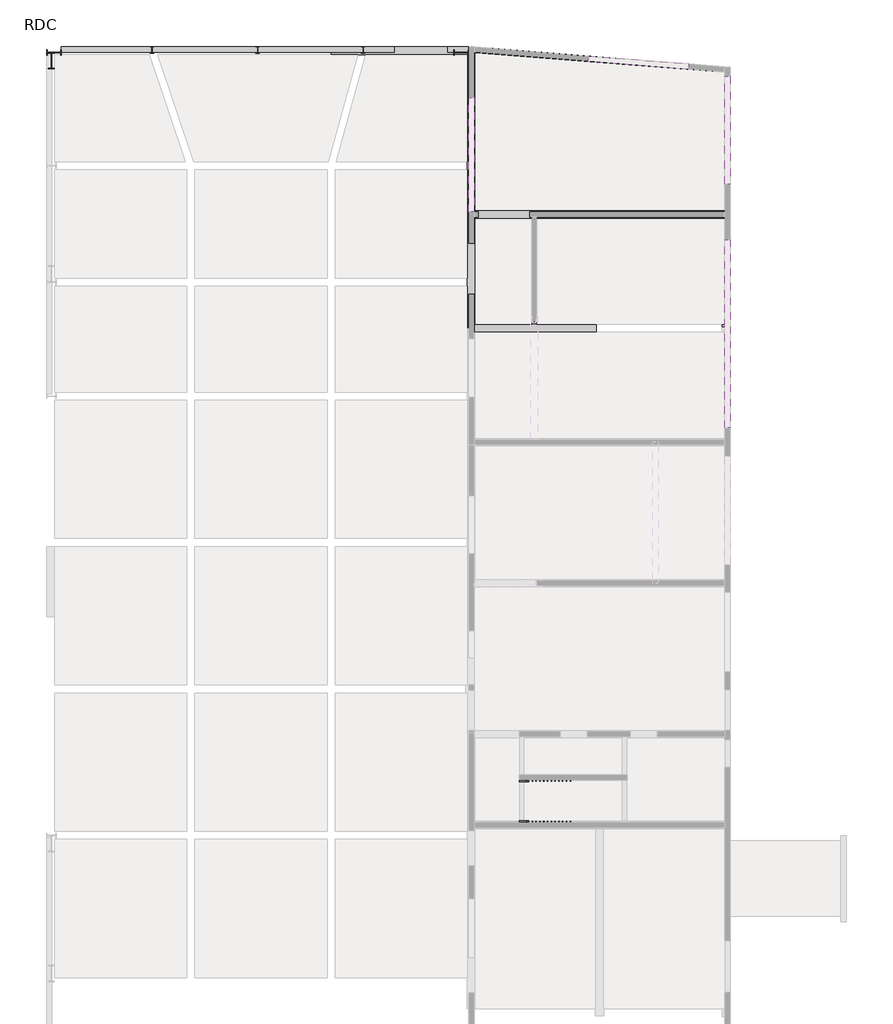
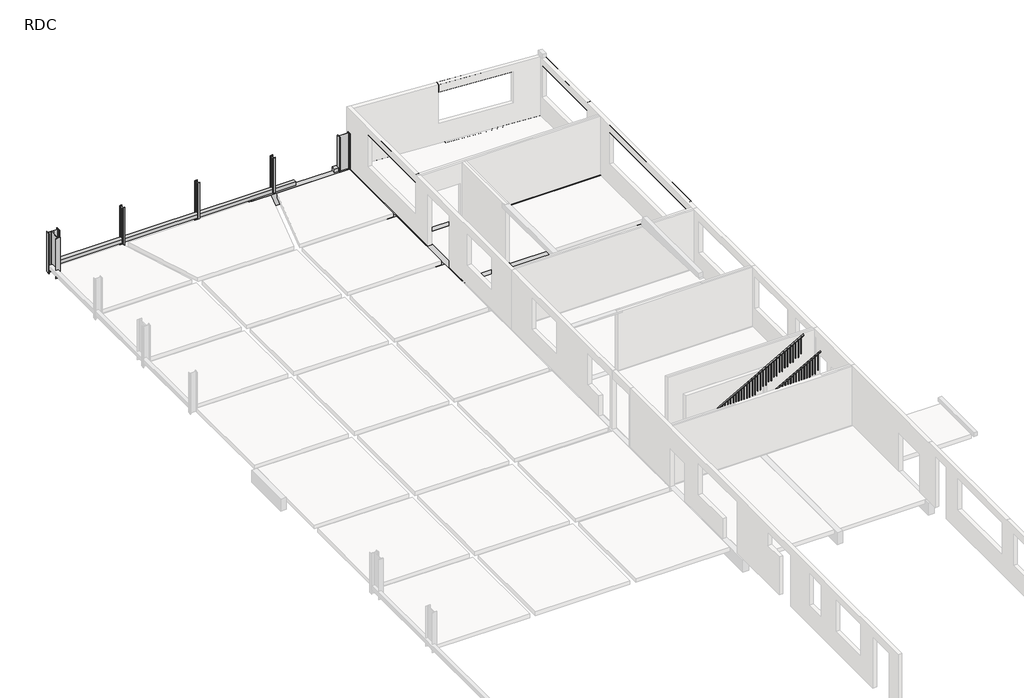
# One storey, part 4 of 4: 17 beams, 6 columns, 2 railings.
"""IFC4 building model written with IfcOpenShell, lengths in millimetres."""

from ifc_helpers import new_model, si_unit, frame, origin, place, context, project, spatial, polyline, outline, extrude, faceted_brep, transform, mapped, element, save
from components import ipe240_2a153a85, ipe550_67ffbe16, ipe600_4712eb6f

model = new_model("IFC4")

# Units and contexts
model_context = context("Model", 3, world=origin())
ifc_project = project(units=[si_unit("LENGTHUNIT", "METRE", prefix="MILLI")], contexts=[model_context])

# Site, building, storey
site = spatial("IfcSite", under=ifc_project)
building = spatial("IfcBuilding", under=site)
storey = spatial("IfcBuildingStorey", under=building, Name="RDC", Elevation=0.0)

# Beams
placement = place(None, origin())
element("IfcBeam", 1, ObjectType="Relevé : 20x20h", at=placement, inside=storey, context=model_context, shape_type="Brep", body=[
    faceted_brep([(15319.509617, 75644.7694586, 200.0), (15319.509617, 75644.7694586, 0.0), (15319.509617, 75444.7694586, 0.0), (15319.509617, 75444.7694586, 200.0), (27589.209617, 75644.7694586, 200.0), (27589.209617, 75444.7694586, 200.0), (27589.209617, 75444.7694586, 0.0), (27589.209617, 75644.7694586, 0.0), (25266.0406356, 75644.7694586, 0.0), (20092.0406356, 75644.7694586, 0.0)], [[[0, 1, 2, 3]], [[4, 5, 6, 7]], [[1, 0, 4, 7, 8, 9]], [[2, 1, 9, 8, 7, 6]], [[3, 2, 6, 5]], [[0, 3, 5, 4]]]),
])
element("IfcBeam", 2, ObjectType="Relevé : 20x20h", at=placement, inside=storey, context=model_context, shape_type="Brep", body=[
    faceted_brep([(30339.0482779, 75444.7694586, 200.0), (30339.0482779, 75444.7694586, 0.0), (30339.0482779, 75525.7146062, 0.0), (30339.0482779, 75644.7694586, 0.0), (30339.0482779, 75644.7694586, 200.0), (29576.6482779, 75444.7694586, 200.0), (29576.6482779, 75644.7694586, 200.0), (29576.6482779, 75644.7694586, 0.0), (29576.6482779, 75444.7694586, 0.0)], [[[0, 1, 2, 3, 4]], [[5, 6, 7, 8]], [[1, 0, 5, 8]], [[3, 2, 1, 8, 7]], [[4, 3, 7, 6]], [[0, 4, 6, 5]]]),
])
element("IfcBeam", 3, ObjectType="Longrine : 20x65h", at=placement, inside=storey, context=model_context, shape_type="Brep", body=[
    faceted_brep([(32659.0482767, 65399.8020814, -650.0), (32659.0482767, 65399.8020814, -200.0), (32659.0482767, 65399.8020814, 0.0), (32659.0482767, 65499.8018879, 0.0), (32659.0482767, 69299.8020814, 0.0), (32659.0482767, 69299.8020814, -200.0), (32659.0482767, 69299.8020814, -650.0), (32859.0482767, 65399.8020814, -650.0), (32859.0482767, 69299.8020814, -650.0), (32859.0482767, 65399.8020814, 0.0), (32859.0482767, 65399.8020814, -200.0), (32859.0482767, 69299.8020814, -200.0), (32859.0482767, 69299.8020814, 0.0), (32859.0482767, 65499.8018879, 0.0)], [[[0, 1, 2, 3, 4, 5, 6]], [[7, 0, 6, 8]], [[9, 10, 7, 8, 11, 12, 13]], [[2, 9, 13, 12, 4, 3]], [[2, 1, 0, 7, 10, 9]], [[6, 5, 4, 12, 11, 8]]]),
])
element("IfcBeam", 4, ObjectType="Longrine : 30x65h", at=placement, inside=storey, context=model_context, shape_type="Brep", body=[
    faceted_brep([(35069.7001414, 75271.7680672, -650.0), (35069.7001414, 75271.7680672, 0.0), (39789.0482781, 74898.6043676, 0.0), (39989.0482781, 74882.7901624, 0.0), (39989.0482781, 74882.7901624, -650.0), (35046.0526432, 74972.7015264, -650.0), (39989.0482781, 74581.8537897, -650.0), (39689.0482781, 74605.5750975, -650.0), (35046.0526432, 74972.7015264, 0.0), (35046.0526432, 74972.7015264, -200.0), (39989.0482781, 74581.8537897, 0.0), (39789.0482781, 74597.6679949, 0.0), (35053.9351426, 75072.3903734, 0.0)], [[[0, 1, 2, 3, 4]], [[5, 0, 4, 6, 7]], [[8, 9, 5, 7, 6, 10, 11]], [[1, 12, 8, 11, 10, 3, 2]], [[4, 3, 10, 6]], [[1, 0, 5, 9, 8, 12]]]),
])
element("IfcBeam", 5, ObjectType="Longrine : 30x65h", at=placement, inside=storey, context=model_context, shape_type="Brep", body=[
    faceted_brep([(30339.0482779, 75344.8891914, -650.0), (30589.0482779, 75325.1214348, -650.0), (35046.0526432, 74972.7015264, -650.0), (35046.0526432, 74972.7015264, -200.0), (30589.0482779, 75325.1214348, -200.0), (30589.0482779, 75325.1214348, 0.0), (30339.0482779, 75344.8891914, 0.0), (30348.4865643, 75645.0792691, -650.0), (35069.7001414, 75271.7680672, -650.0), (30339.0482779, 75525.7146062, -650.0), (30347.1717276, 75628.4507159, -650.0), (30348.4865643, 75645.0792691, 0.0), (30539.0482779, 75630.0113589, 0.0), (35069.7001414, 75271.7680672, 0.0), (30347.1717276, 75628.4507159, 0.0), (30339.0482779, 75525.7146062, 0.0), (30589.0482779, 75425.4335591, 0.0), (35053.9351426, 75072.3903734, 0.0), (35053.9351426, 75072.3903734, -200.0), (30589.0482779, 75425.4335591, -200.0)], [[[0, 1, 2, 3, 4, 5, 6]], [[7, 8, 2, 1, 0, 9, 10]], [[8, 7, 11, 12, 13]], [[13, 12, 11, 14, 15, 6, 5, 16, 17]], [[11, 7, 10, 9, 15, 14]], [[0, 6, 15, 9]], [[18, 19, 4, 3]], [[16, 19, 18, 17]], [[19, 16, 5, 4]], [[2, 8, 13, 17, 18, 3]]]),
])
element("IfcBeam", 6, ObjectType="Longrine : 30x65h", at=placement, inside=storey, context=model_context, shape_type="Brep", body=[
    faceted_brep([(39689.0482781, 69299.8020814, -650.0), (39689.0482781, 69299.8020814, -200.0), (39689.0482781, 69299.8020814, 0.0), (39689.0482781, 69599.8020814, 0.0), (39689.0482781, 69599.8020814, -200.0), (39689.0482781, 74605.5750975, -200.0), (39689.0482781, 74605.5750975, -650.0), (39689.0482781, 69599.8020814, -650.0), (39989.0482781, 69299.8020814, -650.0), (39989.0482781, 74581.8537897, -650.0), (39989.0482781, 69299.8020814, 0.0), (39989.0482781, 74581.8537897, 0.0), (39789.0482781, 69299.8020814, 0.0), (39789.0482781, 74597.6679949, 0.0), (39789.0482781, 69599.8020814, 0.0), (39789.0482781, 74597.6679949, -200.0), (39789.0482781, 69599.8020814, -200.0)], [[[0, 1, 2, 3, 4, 5, 6, 7]], [[8, 0, 7, 6, 9]], [[10, 8, 9, 11]], [[2, 12, 10, 11, 13, 14, 3]], [[2, 1, 0, 8, 10, 12]], [[9, 6, 5, 15, 13, 11]], [[4, 16, 15, 5]], [[16, 14, 13, 15]], [[14, 16, 4, 3]]]),
])
element("IfcBeam", 7, ObjectType="Longrine : 30x65h", at=placement, inside=storey, context=model_context, shape_type="Brep", body=[
    faceted_brep([(39689.0482781, 65289.8020814, -650.0), (39689.0482781, 65289.8020814, 0.0), (39689.0482781, 65399.8020814, 0.0), (39689.0482781, 65399.8020814, -200.0), (39689.0482781, 69299.8020814, -200.0), (39689.0482781, 69299.8020814, -650.0), (39989.0482781, 65289.8020814, -650.0), (39989.0482781, 69299.8020814, -650.0), (39989.0482781, 65289.8020814, 0.0), (39989.0482781, 69299.8020814, 0.0), (39789.0482781, 69299.8020814, 0.0), (39789.0482781, 65399.8020814, 0.0), (39789.0482781, 65399.8020814, -200.0), (39789.0482781, 69299.8020814, -200.0)], [[[0, 1, 2, 3, 4, 5]], [[6, 0, 5, 7]], [[8, 6, 7, 9]], [[1, 8, 9, 10, 11, 2]], [[1, 0, 6, 8]], [[12, 13, 4, 3]], [[11, 12, 3, 2]], [[13, 12, 11, 10]], [[7, 5, 4, 13, 10, 9]]]),
])
element("IfcBeam", 8, ObjectType="Longrine : 30x65h", at=placement, inside=storey, context=model_context, shape_type="Brep", body=[
    faceted_brep([(35049.0482776, 69599.8020814, -650.0), (35049.0482776, 69599.8020814, 0.0), (39689.0482781, 69599.8020814, 0.0), (39689.0482781, 69599.8020814, -200.0), (39689.0482781, 69599.8020814, -650.0), (35049.0482776, 69299.8020814, -650.0), (39689.0482781, 69299.8020814, -650.0), (35049.0482776, 69299.8020814, 0.0), (39689.0482781, 69299.8020814, 0.0)], [[[0, 1, 2, 3, 4]], [[5, 0, 4, 6]], [[7, 5, 6, 8]], [[1, 7, 8, 2]], [[4, 3, 2, 8, 6]], [[1, 0, 5, 7]]]),
])
element("IfcBeam", 9, ObjectType="Longrine : 30x65h", at=placement, inside=storey, context=model_context, shape_type="Brep", body=[
    faceted_brep([(35049.0482776, 69299.8020814, -650.0), (35049.0482776, 69299.8020814, 0.0), (32859.0482767, 69299.8020814, 0.0), (32659.0482767, 69299.8020814, 0.0), (30589.0482779, 69299.8020814, 0.0), (30339.0482779, 69299.8020814, 0.0), (30339.0482779, 69299.8020814, -650.0), (30589.0482779, 69299.8020814, -650.0), (32659.0482767, 69299.8020814, -650.0), (32859.0482767, 69299.8020814, -650.0), (35049.0482776, 69599.8020814, -650.0), (30339.0482779, 69449.8020814, -650.0), (30339.0482779, 69599.8020814, -650.0), (30589.0482779, 69599.8020814, -650.0), (35049.0482776, 69599.8020814, 0.0), (30339.0482779, 69599.8020814, 0.0), (30589.0482779, 69599.8020814, 0.0), (30339.0482779, 69449.8020814, 0.0)], [[[0, 1, 2, 3, 4, 5, 6, 7, 8, 9]], [[10, 0, 9, 8, 7, 6, 11, 12, 13]], [[14, 10, 13, 12, 15, 16]], [[1, 14, 16, 15, 17, 5, 4, 3, 2]], [[6, 5, 17, 15, 12, 11]], [[1, 0, 10, 14]]]),
])
element("IfcBeam", 10, ObjectType="Longrine : 30x65h", at=placement, inside=storey, context=model_context, shape_type="Brep", body=[
    faceted_brep([(35054.0482776, 65399.8020814, 0.0), (35054.0482776, 65399.8020814, -650.0), (32859.0482767, 65399.8020814, -650.0), (32659.0482767, 65399.8020814, -650.0), (30589.0482779, 65399.8020814, -650.0), (30339.0482779, 65399.8020814, -650.0), (30339.0482779, 65399.8020814, 0.0), (30589.0482779, 65399.8020814, 0.0), (32659.0482767, 65399.8020814, 0.0), (32859.0482767, 65399.8020814, 0.0), (35054.0482776, 65099.8020814, -650.0), (30589.0482779, 65099.8020814, -650.0), (30339.0482779, 65099.8020814, -650.0), (30339.0482779, 65249.8020814, -650.0), (35054.0482776, 65099.8020814, 0.0), (30589.0482779, 65099.8020814, 0.0), (30339.0482779, 65099.8020814, 0.0), (30339.0482779, 65249.8020814, 0.0)], [[[0, 1, 2, 3, 4, 5, 6, 7, 8, 9]], [[1, 10, 11, 12, 13, 5, 4, 3, 2]], [[10, 14, 15, 16, 12, 11]], [[14, 0, 9, 8, 7, 6, 17, 16, 15]], [[6, 5, 13, 12, 16, 17]], [[0, 14, 10, 1]]]),
])
element("IfcBeam", 11, ObjectType="Longrine : 30x65h", at=placement, inside=storey, context=model_context, shape_type="Brep", body=[
    faceted_brep([(30289.0482779, 69449.8020814, 0.0), (30289.0482779, 71099.8020807, 0.0), (30289.0482779, 71399.8020807, 0.0), (30289.0482779, 75344.7694586, 0.0), (30289.0482779, 75628.4507159, 0.0), (30289.0482779, 75628.4507159, -650.0), (30289.0482779, 75344.7694586, -650.0), (30289.0482779, 71399.8020807, -650.0), (30289.0482779, 71099.8020807, -650.0), (30289.0482779, 69449.8020814, -650.0), (30347.1717276, 75628.4507159, -650.0), (30339.0482779, 75525.7146062, -650.0), (30339.0482779, 75344.8891914, -650.0), (30589.0482779, 75325.1214348, -650.0), (30589.0482779, 69599.8020814, -650.0), (30339.0482779, 69599.8020814, -650.0), (30339.0482779, 69449.8020814, -650.0), (30589.0482779, 75325.1214348, -200.0), (30589.0482779, 75325.1214348, 0.0), (30589.0482779, 69599.8020814, 0.0), (30589.0482779, 69599.8020814, -200.0), (30339.0482779, 69449.8020814, 0.0), (30339.0482779, 69599.8020814, 0.0), (30339.0482779, 75344.8891914, 0.0), (30339.0482779, 75444.7694586, 0.0), (30339.0482779, 75525.7146062, 0.0), (30347.1717276, 75628.4507159, 0.0)], [[[0, 1, 2, 3, 4, 5, 6, 7, 8, 9]], [[9, 8, 7, 6, 5, 10, 11, 12, 13, 14, 15, 16]], [[13, 17, 18, 19, 20, 14]], [[4, 3, 2, 1, 0, 21, 22, 19, 18, 23, 24, 25, 26]], [[13, 12, 23, 18, 17]], [[22, 15, 14, 20, 19]], [[15, 22, 21, 16]], [[23, 12, 11, 25, 24]], [[0, 9, 16, 21]], [[5, 4, 26, 10]], [[25, 11, 10, 26]]]),
])
element("IfcBeam", 12, ObjectType="Longrine : 30x65h", at=placement, inside=storey, context=model_context, shape_type="Brep", body=[
    faceted_brep([(30289.0482779, 69449.8020814, 0.0), (30289.0482779, 69449.8020814, -650.0), (30289.0482779, 67099.8020807, -650.0), (30289.0482779, 66799.8020807, -650.0), (30289.0482779, 65249.8020814, -650.0), (30289.0482779, 65249.8020814, 0.0), (30289.0482779, 66799.8020807, 0.0), (30289.0482779, 67099.8020807, 0.0), (30339.0482779, 69299.8020814, -650.0), (30589.0482779, 69299.8020814, -650.0), (30589.0482779, 65399.8020814, -650.0), (30339.0482779, 65399.8020814, -650.0), (30339.0482779, 65249.8020814, -650.0), (30339.0482779, 69449.8020814, -650.0), (30589.0482779, 69299.8020814, -200.0), (30589.0482779, 69299.8020814, 0.0), (30589.0482779, 65399.8020814, 0.0), (30589.0482779, 65399.8020814, -200.0), (30339.0482779, 69299.8020814, 0.0), (30339.0482779, 69449.8020814, 0.0), (30339.0482779, 65249.8020814, 0.0), (30339.0482779, 65399.8020814, 0.0)], [[[0, 1, 2, 3, 4, 5, 6, 7]], [[8, 9, 10, 11, 12, 4, 3, 2, 1, 13]], [[9, 14, 15, 16, 17, 10]], [[15, 18, 19, 0, 7, 6, 5, 20, 21, 16]], [[8, 18, 15, 14, 9]], [[1, 0, 19, 13]], [[18, 8, 13, 19]], [[21, 11, 10, 17, 16]], [[11, 21, 20, 12]], [[5, 4, 12, 20]]]),
])
element("IfcBeam", 13, ObjectType="Longrine : 30x65h", at=placement, inside=storey, context=model_context, shape_type="Brep", body=[
    faceted_brep([(30351.7444568, 75644.7694586, -650.0), (30351.7444568, 75644.7694586, 0.0), (30351.7444568, 75628.4507159, 0.0), (30351.7444568, 75628.4507159, -650.0), (25266.0406356, 75644.7694586, -650.0), (25266.0406356, 75644.7694586, 0.0), (27589.209617, 75644.7694586, 0.0), (29576.6482779, 75644.7694586, 0.0), (30339.0482779, 75644.7694586, 0.0), (30347.1717276, 75628.4507159, -650.0), (30289.0482779, 75628.4507159, -650.0), (30289.0482779, 75344.7694586, -650.0), (26552.1591595, 75344.7694586, -650.0), (26240.9368486, 75344.7694586, -650.0), (25266.0406356, 75344.7694586, -650.0), (25266.0406356, 75344.7694586, 0.0), (30289.0482779, 75344.7694586, -200.0), (30289.0482779, 75344.7694586, 0.0), (26552.1591595, 75344.7694586, 0.0), (26240.9368486, 75344.7694586, 0.0), (30289.0482779, 75628.4507159, 0.0), (30347.1717276, 75628.4507159, 0.0)], [[[0, 1, 2, 3]], [[1, 0, 4, 5, 6, 7, 8]], [[4, 0, 3, 9, 10, 11, 12, 13, 14]], [[15, 14, 13, 12, 11, 16, 17, 18, 19]], [[1, 8, 7, 6, 5, 15, 19, 18, 17, 20, 21, 2]], [[10, 20, 17, 16, 11]], [[5, 4, 14, 15]], [[20, 10, 9, 3, 2, 21]]]),
])
element("IfcBeam", 14, ObjectType="Poutre : 20x40h", at=placement, inside=storey, context=model_context, shape_type="SweptSolid", body=[
    extrude(outline(polyline([(39789.0482781, 74549.5520814), (39989.0482781, 74549.5520814), (39989.0482781, 70574.5520814), (39789.0482781, 70574.5520814), (39789.0482781, 74549.5520814)])), frame((0.0, 0.0, 2800.0), z_axis=(0.0, 0.0, 1.0), x_axis=(1.0, 0.0, 0.0)), (0.0, 0.0, 1.0), 400.0),
])
element("IfcBeam", 15, ObjectType="Poutre : 20x40h", at=placement, inside=storey, context=model_context, shape_type="SweptSolid", body=[
    extrude(outline(polyline([(38459.2564911, 75003.7523687), (38443.4914923, 74804.3746748), (34755.0041557, 75096.0271532), (34770.7691545, 75295.4048471), (38459.2564911, 75003.7523687)])), frame((0.0, 0.0, 2800.0), z_axis=(0.0, 0.0, 1.0), x_axis=(1.0, 0.0, 0.0)), (0.0, 0.0, 1.0), 400.0),
])
element("IfcBeam", 16, ObjectType="Poutre : 20x40h", at=placement, inside=storey, context=model_context, shape_type="SweptSolid", body=[
    extrude(outline(polyline([(30539.0482779, 69550.0032938), (30339.0482779, 69550.0032938), (30339.0482779, 73750.0032938), (30539.0482779, 73750.0032938), (30539.0482779, 69550.0032938)])), frame((0.0, 0.0, 2800.0), z_axis=(0.0, 0.0, 1.0), x_axis=(1.0, 0.0, 0.0)), (0.0, 0.0, 1.0), 400.0),
])
element("IfcBeam", 17, ObjectType="Poutre : 20x63h", at=placement, inside=storey, context=model_context, shape_type="SweptSolid", body=[
    extrude(outline(polyline([(39789.0482781, 68524.8020814), (39989.0482781, 68524.8020814), (39989.0482781, 61574.8020814), (39789.0482781, 61574.8020814), (39789.0482781, 68524.8020814)])), frame((0.0, 0.0, 2800.0), z_axis=(0.0, 0.0, 1.0), x_axis=(1.0, 0.0, 0.0)), (0.0, 0.0, 1.0), 400.0),
])

# Columns
ipe240_shape = ipe240_2a153a85(model_context)
element("IfcColumn", 18, ObjectType="IPE-Poutrelles-Poteau : IPE240", at=placement, inside=storey, context=model_context, shape_type="MappedRepresentation", body=[
    mapped(ipe240_shape, transform((18661.2406356, 75524.7694586, 0.0), x_axis=(1.0, 0.0, 0.0), y_axis=(0.0, 1.0, 0.0), z_axis=(0.0, 0.0, 1.0))),
])
element("IfcColumn", 19, ObjectType="IPE-Poutrelles-Poteau : IPE240", at=placement, inside=storey, context=model_context, shape_type="MappedRepresentation", body=[
    mapped(ipe240_shape, transform((22553.7406356, 75524.7694586, 0.0), x_axis=(1.0, 0.0, 0.0), y_axis=(0.0, 1.0, 0.0), z_axis=(0.0, 0.0, 1.0))),
])
element("IfcColumn", 20, ObjectType="IPE-Poutrelles-Poteau : IPE240", at=placement, inside=storey, context=model_context, shape_type="MappedRepresentation", body=[
    mapped(ipe240_shape, transform((26446.2406356, 75524.7694586, 0.0), x_axis=(1.0, 0.0, 0.0), y_axis=(0.0, 1.0, 0.0), z_axis=(0.0, 0.0, 1.0))),
])
ipe550_shape = ipe550_67ffbe16(model_context)
element("IfcColumn", 21, ObjectType="IPE-Poutrelles-Poteau : IPE550", at=placement, inside=storey, context=model_context, shape_type="MappedRepresentation", body=[
    mapped(ipe550_shape, transform((15044.048278, 75429.7694586, 0.0), x_axis=(0.0, 1.0000000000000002, 0.0), y_axis=(-1.0000000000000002, 0.0, 0.0), z_axis=(0.0, 0.0, 1.0))),
])
element("IfcColumn", 22, ObjectType="IPE-Poutrelles-Poteau : IPE550", at=placement, inside=storey, context=model_context, shape_type="MappedRepresentation", body=[
    mapped(ipe550_shape, transform((30064.0482779, 75429.8020807, 0.0), x_axis=(0.0, 1.0000000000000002, 0.0), y_axis=(-1.0000000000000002, 0.0, 0.0), z_axis=(0.0, 0.0, 1.0))),
])
ipe600_shape = ipe600_4712eb6f(model_context)
element("IfcColumn", 23, ObjectType="IPE-Poutrelles-Poteau : IPE600", at=placement, inside=storey, context=model_context, shape_type="MappedRepresentation", body=[
    mapped(ipe600_shape, transform((14949.048278, 75124.2194586, 0.0), x_axis=(1.0, 0.0, 0.0), y_axis=(0.0, 1.0, 0.0), z_axis=(0.0, 0.0, 1.0))),
])

# Railings
element("IfcRailing", 24, ObjectType="900mm", at=placement, inside=storey, context=model_context, shape_type="SweptSolid", body=[
    extrude(outline(polyline([(1055.9090909, 32199.048278), (998.6804598, 32199.048278), (4384.1350053, 38279.048278), (4441.3636364, 38279.048278), (1055.9090909, 32199.048278)])), frame((0.0, 47030.2020813, 0.0), z_axis=(0.0, 1.0, 0.0), x_axis=(0.0, 0.0, 1.0)), (0.0, 0.0, 1.0), 50.0),
    extrude(outline(polyline([(4306.1804598, 38139.048278), (3430.0, 38139.048278), (3430.0, 38159.048278), (4317.3168234, 38159.048278), (4306.1804598, 38139.048278)])), frame((0.0, 47045.2020813, 0.0), z_axis=(0.0, 1.0, 0.0), x_axis=(0.0, 0.0, 1.0)), (0.0, 0.0, 1.0), 20.0),
    extrude(outline(polyline([(4228.2259143, 37999.048278), (3274.0909091, 37999.048278), (3274.0909091, 38019.048278), (4239.362278, 38019.048278), (4228.2259143, 37999.048278)])), frame((0.0, 47045.2020813, 0.0), z_axis=(0.0, 1.0, 0.0), x_axis=(0.0, 0.0, 1.0)), (0.0, 0.0, 1.0), 20.0),
    extrude(outline(polyline([(4150.2713689, 37859.048278), (3274.0909091, 37859.048278), (3274.0909091, 37879.048278), (4161.4077325, 37879.048278), (4150.2713689, 37859.048278)])), frame((0.0, 47045.2020813, 0.0), z_axis=(0.0, 1.0, 0.0), x_axis=(0.0, 0.0, 1.0)), (0.0, 0.0, 1.0), 20.0),
    extrude(outline(polyline([(4072.3168234, 37719.048278), (3118.1818182, 37719.048278), (3118.1818182, 37739.048278), (4083.4531871, 37739.048278), (4072.3168234, 37719.048278)])), frame((0.0, 47045.2020813, 0.0), z_axis=(0.0, 1.0, 0.0), x_axis=(0.0, 0.0, 1.0)), (0.0, 0.0, 1.0), 20.0),
    extrude(outline(polyline([(3994.362278, 37579.048278), (3118.1818182, 37579.048278), (3118.1818182, 37599.048278), (4005.4986416, 37599.048278), (3994.362278, 37579.048278)])), frame((0.0, 47045.2020813, 0.0), z_axis=(0.0, 1.0, 0.0), x_axis=(0.0, 0.0, 1.0)), (0.0, 0.0, 1.0), 20.0),
    extrude(outline(polyline([(3916.4077325, 37439.048278), (2962.2727273, 37439.048278), (2962.2727273, 37459.048278), (3927.5440962, 37459.048278), (3916.4077325, 37439.048278)])), frame((0.0, 47045.2020813, 0.0), z_axis=(0.0, 1.0, 0.0), x_axis=(0.0, 0.0, 1.0)), (0.0, 0.0, 1.0), 20.0),
    extrude(outline(polyline([(3838.4531871, 37299.048278), (2962.2727273, 37299.048278), (2962.2727273, 37319.048278), (3849.5895507, 37319.048278), (3838.4531871, 37299.048278)])), frame((0.0, 47045.2020813, 0.0), z_axis=(0.0, 1.0, 0.0), x_axis=(0.0, 0.0, 1.0)), (0.0, 0.0, 1.0), 20.0),
    extrude(outline(polyline([(3760.4986416, 37159.048278), (2806.3636364, 37159.048278), (2806.3636364, 37179.048278), (3771.6350053, 37179.048278), (3760.4986416, 37159.048278)])), frame((0.0, 47045.2020813, 0.0), z_axis=(0.0, 1.0, 0.0), x_axis=(0.0, 0.0, 1.0)), (0.0, 0.0, 1.0), 20.0),
    extrude(outline(polyline([(3682.5440962, 37019.048278), (2806.3636364, 37019.048278), (2806.3636364, 37039.048278), (3693.6804598, 37039.048278), (3682.5440962, 37019.048278)])), frame((0.0, 47045.2020813, 0.0), z_axis=(0.0, 1.0, 0.0), x_axis=(0.0, 0.0, 1.0)), (0.0, 0.0, 1.0), 20.0),
    extrude(outline(polyline([(3604.5895507, 36879.048278), (2650.4545455, 36879.048278), (2650.4545455, 36899.048278), (3615.7259143, 36899.048278), (3604.5895507, 36879.048278)])), frame((0.0, 47045.2020813, 0.0), z_axis=(0.0, 1.0, 0.0), x_axis=(0.0, 0.0, 1.0)), (0.0, 0.0, 1.0), 20.0),
    extrude(outline(polyline([(3526.6350053, 36739.048278), (2650.4545455, 36739.048278), (2650.4545455, 36759.048278), (3537.7713689, 36759.048278), (3526.6350053, 36739.048278)])), frame((0.0, 47045.2020813, 0.0), z_axis=(0.0, 1.0, 0.0), x_axis=(0.0, 0.0, 1.0)), (0.0, 0.0, 1.0), 20.0),
    extrude(outline(polyline([(3448.6804598, 36599.048278), (2494.5454545, 36599.048278), (2494.5454545, 36619.048278), (3459.8168234, 36619.048278), (3448.6804598, 36599.048278)])), frame((0.0, 47045.2020813, 0.0), z_axis=(0.0, 1.0, 0.0), x_axis=(0.0, 0.0, 1.0)), (0.0, 0.0, 1.0), 20.0),
    extrude(outline(polyline([(3370.7259143, 36459.048278), (2494.5454545, 36459.048278), (2494.5454545, 36479.048278), (3381.862278, 36479.048278), (3370.7259143, 36459.048278)])), frame((0.0, 47045.2020813, 0.0), z_axis=(0.0, 1.0, 0.0), x_axis=(0.0, 0.0, 1.0)), (0.0, 0.0, 1.0), 20.0),
    extrude(outline(polyline([(3292.7713689, 36319.048278), (2338.6363636, 36319.048278), (2338.6363636, 36339.048278), (3303.9077325, 36339.048278), (3292.7713689, 36319.048278)])), frame((0.0, 47045.2020813, 0.0), z_axis=(0.0, 1.0, 0.0), x_axis=(0.0, 0.0, 1.0)), (0.0, 0.0, 1.0), 20.0),
    extrude(outline(polyline([(3214.8168234, 36179.048278), (2338.6363636, 36179.048278), (2338.6363636, 36199.048278), (3225.9531871, 36199.048278), (3214.8168234, 36179.048278)])), frame((0.0, 47045.2020813, 0.0), z_axis=(0.0, 1.0, 0.0), x_axis=(0.0, 0.0, 1.0)), (0.0, 0.0, 1.0), 20.0),
    extrude(outline(polyline([(3136.862278, 36039.048278), (2182.7272727, 36039.048278), (2182.7272727, 36059.048278), (3147.9986416, 36059.048278), (3136.862278, 36039.048278)])), frame((0.0, 47045.2020813, 0.0), z_axis=(0.0, 1.0, 0.0), x_axis=(0.0, 0.0, 1.0)), (0.0, 0.0, 1.0), 20.0),
    extrude(outline(polyline([(3058.9077325, 35899.048278), (2182.7272727, 35899.048278), (2182.7272727, 35919.048278), (3070.0440962, 35919.048278), (3058.9077325, 35899.048278)])), frame((0.0, 47045.2020813, 0.0), z_axis=(0.0, 1.0, 0.0), x_axis=(0.0, 0.0, 1.0)), (0.0, 0.0, 1.0), 20.0),
    extrude(outline(polyline([(2980.9531871, 35759.048278), (2026.8181818, 35759.048278), (2026.8181818, 35779.048278), (2992.0895507, 35779.048278), (2980.9531871, 35759.048278)])), frame((0.0, 47045.2020813, 0.0), z_axis=(0.0, 1.0, 0.0), x_axis=(0.0, 0.0, 1.0)), (0.0, 0.0, 1.0), 20.0),
    extrude(outline(polyline([(2902.9986416, 35619.048278), (2026.8181818, 35619.048278), (2026.8181818, 35639.048278), (2914.1350053, 35639.048278), (2902.9986416, 35619.048278)])), frame((0.0, 47045.2020813, 0.0), z_axis=(0.0, 1.0, 0.0), x_axis=(0.0, 0.0, 1.0)), (0.0, 0.0, 1.0), 20.0),
    extrude(outline(polyline([(2825.0440962, 35479.048278), (1870.9090909, 35479.048278), (1870.9090909, 35499.048278), (2836.1804598, 35499.048278), (2825.0440962, 35479.048278)])), frame((0.0, 47045.2020813, 0.0), z_axis=(0.0, 1.0, 0.0), x_axis=(0.0, 0.0, 1.0)), (0.0, 0.0, 1.0), 20.0),
    extrude(outline(polyline([(2747.0895507, 35339.048278), (1870.9090909, 35339.048278), (1870.9090909, 35359.048278), (2758.2259143, 35359.048278), (2747.0895507, 35339.048278)])), frame((0.0, 47045.2020813, 0.0), z_axis=(0.0, 1.0, 0.0), x_axis=(0.0, 0.0, 1.0)), (0.0, 0.0, 1.0), 20.0),
    extrude(outline(polyline([(2669.1350053, 35199.048278), (1715.0, 35199.048278), (1715.0, 35219.048278), (2680.2713689, 35219.048278), (2669.1350053, 35199.048278)])), frame((0.0, 47045.2020813, 0.0), z_axis=(0.0, 1.0, 0.0), x_axis=(0.0, 0.0, 1.0)), (0.0, 0.0, 1.0), 20.0),
    extrude(outline(polyline([(2591.1804598, 35059.048278), (1715.0, 35059.048278), (1715.0, 35079.048278), (2602.3168234, 35079.048278), (2591.1804598, 35059.048278)])), frame((0.0, 47045.2020813, 0.0), z_axis=(0.0, 1.0, 0.0), x_axis=(0.0, 0.0, 1.0)), (0.0, 0.0, 1.0), 20.0),
    extrude(outline(polyline([(2513.2259143, 34919.048278), (1559.0909091, 34919.048278), (1559.0909091, 34939.048278), (2524.362278, 34939.048278), (2513.2259143, 34919.048278)])), frame((0.0, 47045.2020813, 0.0), z_axis=(0.0, 1.0, 0.0), x_axis=(0.0, 0.0, 1.0)), (0.0, 0.0, 1.0), 20.0),
    extrude(outline(polyline([(2435.2713689, 34779.048278), (1559.0909091, 34779.048278), (1559.0909091, 34799.048278), (2446.4077325, 34799.048278), (2435.2713689, 34779.048278)])), frame((0.0, 47045.2020813, 0.0), z_axis=(0.0, 1.0, 0.0), x_axis=(0.0, 0.0, 1.0)), (0.0, 0.0, 1.0), 20.0),
    extrude(outline(polyline([(2357.3168234, 34639.048278), (1403.1818182, 34639.048278), (1403.1818182, 34659.048278), (2368.4531871, 34659.048278), (2357.3168234, 34639.048278)])), frame((0.0, 47045.2020813, 0.0), z_axis=(0.0, 1.0, 0.0), x_axis=(0.0, 0.0, 1.0)), (0.0, 0.0, 1.0), 20.0),
    extrude(outline(polyline([(2279.362278, 34499.048278), (1403.1818182, 34499.048278), (1403.1818182, 34519.048278), (2290.4986416, 34519.048278), (2279.362278, 34499.048278)])), frame((0.0, 47045.2020813, 0.0), z_axis=(0.0, 1.0, 0.0), x_axis=(0.0, 0.0, 1.0)), (0.0, 0.0, 1.0), 20.0),
    extrude(outline(polyline([(2201.4077325, 34359.048278), (1247.2727273, 34359.048278), (1247.2727273, 34379.048278), (2212.5440962, 34379.048278), (2201.4077325, 34359.048278)])), frame((0.0, 47045.2020813, 0.0), z_axis=(0.0, 1.0, 0.0), x_axis=(0.0, 0.0, 1.0)), (0.0, 0.0, 1.0), 20.0),
    extrude(outline(polyline([(2123.4531871, 34219.048278), (1247.2727273, 34219.048278), (1247.2727273, 34239.048278), (2134.5895507, 34239.048278), (2123.4531871, 34219.048278)])), frame((0.0, 47045.2020813, 0.0), z_axis=(0.0, 1.0, 0.0), x_axis=(0.0, 0.0, 1.0)), (0.0, 0.0, 1.0), 20.0),
    extrude(outline(polyline([(2045.4986416, 34079.048278), (1091.3636364, 34079.048278), (1091.3636364, 34099.048278), (2056.6350053, 34099.048278), (2045.4986416, 34079.048278)])), frame((0.0, 47045.2020813, 0.0), z_axis=(0.0, 1.0, 0.0), x_axis=(0.0, 0.0, 1.0)), (0.0, 0.0, 1.0), 20.0),
    extrude(outline(polyline([(1967.5440962, 33939.048278), (1091.3636364, 33939.048278), (1091.3636364, 33959.048278), (1978.6804598, 33959.048278), (1967.5440962, 33939.048278)])), frame((0.0, 47045.2020813, 0.0), z_axis=(0.0, 1.0, 0.0), x_axis=(0.0, 0.0, 1.0)), (0.0, 0.0, 1.0), 20.0),
    extrude(outline(polyline([(1889.5895507, 33799.048278), (935.4545455, 33799.048278), (935.4545455, 33819.048278), (1900.7259143, 33819.048278), (1889.5895507, 33799.048278)])), frame((0.0, 47045.2020813, 0.0), z_axis=(0.0, 1.0, 0.0), x_axis=(0.0, 0.0, 1.0)), (0.0, 0.0, 1.0), 20.0),
    extrude(outline(polyline([(1811.6350053, 33659.048278), (935.4545455, 33659.048278), (935.4545455, 33679.048278), (1822.7713689, 33679.048278), (1811.6350053, 33659.048278)])), frame((0.0, 47045.2020813, 0.0), z_axis=(0.0, 1.0, 0.0), x_axis=(0.0, 0.0, 1.0)), (0.0, 0.0, 1.0), 20.0),
    extrude(outline(polyline([(1733.6804598, 33519.048278), (779.5454545, 33519.048278), (779.5454545, 33539.048278), (1744.8168234, 33539.048278), (1733.6804598, 33519.048278)])), frame((0.0, 47045.2020813, 0.0), z_axis=(0.0, 1.0, 0.0), x_axis=(0.0, 0.0, 1.0)), (0.0, 0.0, 1.0), 20.0),
    extrude(outline(polyline([(1655.7259143, 33379.048278), (779.5454545, 33379.048278), (779.5454545, 33399.048278), (1666.862278, 33399.048278), (1655.7259143, 33379.048278)])), frame((0.0, 47045.2020813, 0.0), z_axis=(0.0, 1.0, 0.0), x_axis=(0.0, 0.0, 1.0)), (0.0, 0.0, 1.0), 20.0),
    extrude(outline(polyline([(1577.7713689, 33239.048278), (623.6363636, 33239.048278), (623.6363636, 33259.048278), (1588.9077325, 33259.048278), (1577.7713689, 33239.048278)])), frame((0.0, 47045.2020813, 0.0), z_axis=(0.0, 1.0, 0.0), x_axis=(0.0, 0.0, 1.0)), (0.0, 0.0, 1.0), 20.0),
    extrude(outline(polyline([(1499.8168234, 33099.048278), (623.6363636, 33099.048278), (623.6363636, 33119.048278), (1510.9531871, 33119.048278), (1499.8168234, 33099.048278)])), frame((0.0, 47045.2020813, 0.0), z_axis=(0.0, 1.0, 0.0), x_axis=(0.0, 0.0, 1.0)), (0.0, 0.0, 1.0), 20.0),
    extrude(outline(polyline([(1421.862278, 32959.048278), (467.7272727, 32959.048278), (467.7272727, 32979.048278), (1432.9986416, 32979.048278), (1421.862278, 32959.048278)])), frame((0.0, 47045.2020813, 0.0), z_axis=(0.0, 1.0, 0.0), x_axis=(0.0, 0.0, 1.0)), (0.0, 0.0, 1.0), 20.0),
    extrude(outline(polyline([(1343.9077325, 32819.048278), (467.7272727, 32819.048278), (467.7272727, 32839.048278), (1355.0440962, 32839.048278), (1343.9077325, 32819.048278)])), frame((0.0, 47045.2020813, 0.0), z_axis=(0.0, 1.0, 0.0), x_axis=(0.0, 0.0, 1.0)), (0.0, 0.0, 1.0), 20.0),
    extrude(outline(polyline([(1265.9531871, 32679.048278), (311.8181818, 32679.048278), (311.8181818, 32699.048278), (1277.0895507, 32699.048278), (1265.9531871, 32679.048278)])), frame((0.0, 47045.2020813, 0.0), z_axis=(0.0, 1.0, 0.0), x_axis=(0.0, 0.0, 1.0)), (0.0, 0.0, 1.0), 20.0),
    extrude(outline(polyline([(1187.9986416, 32539.048278), (311.8181818, 32539.048278), (311.8181818, 32559.048278), (1199.1350053, 32559.048278), (1187.9986416, 32539.048278)])), frame((0.0, 47045.2020813, 0.0), z_axis=(0.0, 1.0, 0.0), x_axis=(0.0, 0.0, 1.0)), (0.0, 0.0, 1.0), 20.0),
    extrude(outline(polyline([(1110.0440962, 32399.048278), (155.9090909, 32399.048278), (155.9090909, 32419.048278), (1121.1804598, 32419.048278), (1110.0440962, 32399.048278)])), frame((0.0, 47045.2020813, 0.0), z_axis=(0.0, 1.0, 0.0), x_axis=(0.0, 0.0, 1.0)), (0.0, 0.0, 1.0), 20.0),
    extrude(outline(polyline([(1032.0895507, 32259.048278), (155.9090909, 32259.048278), (155.9090909, 32279.048278), (1043.2259143, 32279.048278), (1032.0895507, 32259.048278)])), frame((0.0, 47045.2020813, 0.0), z_axis=(0.0, 1.0, 0.0), x_axis=(0.0, 0.0, 1.0)), (0.0, 0.0, 1.0), 20.0),
])
element("IfcRailing", 25, ObjectType="900mm", at=placement, inside=storey, context=model_context, shape_type="SweptSolid", body=[
    extrude(outline(polyline([(1055.9090909, 32199.048278), (998.6804598, 32199.048278), (4384.1350053, 38279.048278), (4441.3636364, 38279.048278), (1055.9090909, 32199.048278)])), frame((0.0, 48529.4020815, 0.0), z_axis=(0.0, 1.0, 0.0), x_axis=(0.0, 0.0, 1.0)), (0.0, 0.0, 1.0), 50.0),
    extrude(outline(polyline([(3430.0, 38139.048278), (3430.0, 38159.048278), (4317.3168234, 38159.048278), (4306.1804598, 38139.048278), (3430.0, 38139.048278)])), frame((0.0, 48544.4020815, 0.0), z_axis=(0.0, 1.0, 0.0), x_axis=(0.0, 0.0, 1.0)), (0.0, 0.0, 1.0), 20.0),
    extrude(outline(polyline([(3274.0909091, 37999.048278), (3274.0909091, 38019.048278), (4239.362278, 38019.048278), (4228.2259143, 37999.048278), (3274.0909091, 37999.048278)])), frame((0.0, 48544.4020815, 0.0), z_axis=(0.0, 1.0, 0.0), x_axis=(0.0, 0.0, 1.0)), (0.0, 0.0, 1.0), 20.0),
    extrude(outline(polyline([(3274.0909091, 37859.048278), (3274.0909091, 37879.048278), (4161.4077325, 37879.048278), (4150.2713689, 37859.048278), (3274.0909091, 37859.048278)])), frame((0.0, 48544.4020815, 0.0), z_axis=(0.0, 1.0, 0.0), x_axis=(0.0, 0.0, 1.0)), (0.0, 0.0, 1.0), 20.0),
    extrude(outline(polyline([(3118.1818182, 37719.048278), (3118.1818182, 37739.048278), (4083.4531871, 37739.048278), (4072.3168234, 37719.048278), (3118.1818182, 37719.048278)])), frame((0.0, 48544.4020815, 0.0), z_axis=(0.0, 1.0, 0.0), x_axis=(0.0, 0.0, 1.0)), (0.0, 0.0, 1.0), 20.0),
    extrude(outline(polyline([(3118.1818182, 37579.048278), (3118.1818182, 37599.048278), (4005.4986416, 37599.048278), (3994.362278, 37579.048278), (3118.1818182, 37579.048278)])), frame((0.0, 48544.4020815, 0.0), z_axis=(0.0, 1.0, 0.0), x_axis=(0.0, 0.0, 1.0)), (0.0, 0.0, 1.0), 20.0),
    extrude(outline(polyline([(2962.2727273, 37439.048278), (2962.2727273, 37459.048278), (3927.5440962, 37459.048278), (3916.4077325, 37439.048278), (2962.2727273, 37439.048278)])), frame((0.0, 48544.4020815, 0.0), z_axis=(0.0, 1.0, 0.0), x_axis=(0.0, 0.0, 1.0)), (0.0, 0.0, 1.0), 20.0),
    extrude(outline(polyline([(2962.2727273, 37299.048278), (2962.2727273, 37319.048278), (3849.5895507, 37319.048278), (3838.4531871, 37299.048278), (2962.2727273, 37299.048278)])), frame((0.0, 48544.4020815, 0.0), z_axis=(0.0, 1.0, 0.0), x_axis=(0.0, 0.0, 1.0)), (0.0, 0.0, 1.0), 20.0),
    extrude(outline(polyline([(2806.3636364, 37159.048278), (2806.3636364, 37179.048278), (3771.6350053, 37179.048278), (3760.4986416, 37159.048278), (2806.3636364, 37159.048278)])), frame((0.0, 48544.4020815, 0.0), z_axis=(0.0, 1.0, 0.0), x_axis=(0.0, 0.0, 1.0)), (0.0, 0.0, 1.0), 20.0),
    extrude(outline(polyline([(2806.3636364, 37019.048278), (2806.3636364, 37039.048278), (3693.6804598, 37039.048278), (3682.5440962, 37019.048278), (2806.3636364, 37019.048278)])), frame((0.0, 48544.4020815, 0.0), z_axis=(0.0, 1.0, 0.0), x_axis=(0.0, 0.0, 1.0)), (0.0, 0.0, 1.0), 20.0),
    extrude(outline(polyline([(2650.4545455, 36879.048278), (2650.4545455, 36899.048278), (3615.7259143, 36899.048278), (3604.5895507, 36879.048278), (2650.4545455, 36879.048278)])), frame((0.0, 48544.4020815, 0.0), z_axis=(0.0, 1.0, 0.0), x_axis=(0.0, 0.0, 1.0)), (0.0, 0.0, 1.0), 20.0),
    extrude(outline(polyline([(2650.4545455, 36739.048278), (2650.4545455, 36759.048278), (3537.7713689, 36759.048278), (3526.6350053, 36739.048278), (2650.4545455, 36739.048278)])), frame((0.0, 48544.4020815, 0.0), z_axis=(0.0, 1.0, 0.0), x_axis=(0.0, 0.0, 1.0)), (0.0, 0.0, 1.0), 20.0),
    extrude(outline(polyline([(2494.5454545, 36599.048278), (2494.5454545, 36619.048278), (3459.8168234, 36619.048278), (3448.6804598, 36599.048278), (2494.5454545, 36599.048278)])), frame((0.0, 48544.4020815, 0.0), z_axis=(0.0, 1.0, 0.0), x_axis=(0.0, 0.0, 1.0)), (0.0, 0.0, 1.0), 20.0),
    extrude(outline(polyline([(2494.5454545, 36459.048278), (2494.5454545, 36479.048278), (3381.862278, 36479.048278), (3370.7259143, 36459.048278), (2494.5454545, 36459.048278)])), frame((0.0, 48544.4020815, 0.0), z_axis=(0.0, 1.0, 0.0), x_axis=(0.0, 0.0, 1.0)), (0.0, 0.0, 1.0), 20.0),
    extrude(outline(polyline([(2338.6363636, 36319.048278), (2338.6363636, 36339.048278), (3303.9077325, 36339.048278), (3292.7713689, 36319.048278), (2338.6363636, 36319.048278)])), frame((0.0, 48544.4020815, 0.0), z_axis=(0.0, 1.0, 0.0), x_axis=(0.0, 0.0, 1.0)), (0.0, 0.0, 1.0), 20.0),
    extrude(outline(polyline([(2338.6363636, 36179.048278), (2338.6363636, 36199.048278), (3225.9531871, 36199.048278), (3214.8168234, 36179.048278), (2338.6363636, 36179.048278)])), frame((0.0, 48544.4020815, 0.0), z_axis=(0.0, 1.0, 0.0), x_axis=(0.0, 0.0, 1.0)), (0.0, 0.0, 1.0), 20.0),
    extrude(outline(polyline([(2182.7272727, 36039.048278), (2182.7272727, 36059.048278), (3147.9986416, 36059.048278), (3136.862278, 36039.048278), (2182.7272727, 36039.048278)])), frame((0.0, 48544.4020815, 0.0), z_axis=(0.0, 1.0, 0.0), x_axis=(0.0, 0.0, 1.0)), (0.0, 0.0, 1.0), 20.0),
    extrude(outline(polyline([(2182.7272727, 35899.048278), (2182.7272727, 35919.048278), (3070.0440962, 35919.048278), (3058.9077325, 35899.048278), (2182.7272727, 35899.048278)])), frame((0.0, 48544.4020815, 0.0), z_axis=(0.0, 1.0, 0.0), x_axis=(0.0, 0.0, 1.0)), (0.0, 0.0, 1.0), 20.0),
    extrude(outline(polyline([(2026.8181818, 35759.048278), (2026.8181818, 35779.048278), (2992.0895507, 35779.048278), (2980.9531871, 35759.048278), (2026.8181818, 35759.048278)])), frame((0.0, 48544.4020815, 0.0), z_axis=(0.0, 1.0, 0.0), x_axis=(0.0, 0.0, 1.0)), (0.0, 0.0, 1.0), 20.0),
    extrude(outline(polyline([(2026.8181818, 35619.048278), (2026.8181818, 35639.048278), (2914.1350053, 35639.048278), (2902.9986416, 35619.048278), (2026.8181818, 35619.048278)])), frame((0.0, 48544.4020815, 0.0), z_axis=(0.0, 1.0, 0.0), x_axis=(0.0, 0.0, 1.0)), (0.0, 0.0, 1.0), 20.0),
    extrude(outline(polyline([(1870.9090909, 35479.048278), (1870.9090909, 35499.048278), (2836.1804598, 35499.048278), (2825.0440962, 35479.048278), (1870.9090909, 35479.048278)])), frame((0.0, 48544.4020815, 0.0), z_axis=(0.0, 1.0, 0.0), x_axis=(0.0, 0.0, 1.0)), (0.0, 0.0, 1.0), 20.0),
    extrude(outline(polyline([(1870.9090909, 35339.048278), (1870.9090909, 35359.048278), (2758.2259143, 35359.048278), (2747.0895507, 35339.048278), (1870.9090909, 35339.048278)])), frame((0.0, 48544.4020815, 0.0), z_axis=(0.0, 1.0, 0.0), x_axis=(0.0, 0.0, 1.0)), (0.0, 0.0, 1.0), 20.0),
    extrude(outline(polyline([(1715.0, 35199.048278), (1715.0, 35219.048278), (2680.2713689, 35219.048278), (2669.1350053, 35199.048278), (1715.0, 35199.048278)])), frame((0.0, 48544.4020815, 0.0), z_axis=(0.0, 1.0, 0.0), x_axis=(0.0, 0.0, 1.0)), (0.0, 0.0, 1.0), 20.0),
    extrude(outline(polyline([(1715.0, 35059.048278), (1715.0, 35079.048278), (2602.3168234, 35079.048278), (2591.1804598, 35059.048278), (1715.0, 35059.048278)])), frame((0.0, 48544.4020815, 0.0), z_axis=(0.0, 1.0, 0.0), x_axis=(0.0, 0.0, 1.0)), (0.0, 0.0, 1.0), 20.0),
    extrude(outline(polyline([(1559.0909091, 34919.048278), (1559.0909091, 34939.048278), (2524.362278, 34939.048278), (2513.2259143, 34919.048278), (1559.0909091, 34919.048278)])), frame((0.0, 48544.4020815, 0.0), z_axis=(0.0, 1.0, 0.0), x_axis=(0.0, 0.0, 1.0)), (0.0, 0.0, 1.0), 20.0),
    extrude(outline(polyline([(1559.0909091, 34779.048278), (1559.0909091, 34799.048278), (2446.4077325, 34799.048278), (2435.2713689, 34779.048278), (1559.0909091, 34779.048278)])), frame((0.0, 48544.4020815, 0.0), z_axis=(0.0, 1.0, 0.0), x_axis=(0.0, 0.0, 1.0)), (0.0, 0.0, 1.0), 20.0),
    extrude(outline(polyline([(1403.1818182, 34639.048278), (1403.1818182, 34659.048278), (2368.4531871, 34659.048278), (2357.3168234, 34639.048278), (1403.1818182, 34639.048278)])), frame((0.0, 48544.4020815, 0.0), z_axis=(0.0, 1.0, 0.0), x_axis=(0.0, 0.0, 1.0)), (0.0, 0.0, 1.0), 20.0),
    extrude(outline(polyline([(1403.1818182, 34499.048278), (1403.1818182, 34519.048278), (2290.4986416, 34519.048278), (2279.362278, 34499.048278), (1403.1818182, 34499.048278)])), frame((0.0, 48544.4020815, 0.0), z_axis=(0.0, 1.0, 0.0), x_axis=(0.0, 0.0, 1.0)), (0.0, 0.0, 1.0), 20.0),
    extrude(outline(polyline([(1247.2727273, 34359.048278), (1247.2727273, 34379.048278), (2212.5440962, 34379.048278), (2201.4077325, 34359.048278), (1247.2727273, 34359.048278)])), frame((0.0, 48544.4020815, 0.0), z_axis=(0.0, 1.0, 0.0), x_axis=(0.0, 0.0, 1.0)), (0.0, 0.0, 1.0), 20.0),
    extrude(outline(polyline([(1247.2727273, 34219.048278), (1247.2727273, 34239.048278), (2134.5895507, 34239.048278), (2123.4531871, 34219.048278), (1247.2727273, 34219.048278)])), frame((0.0, 48544.4020815, 0.0), z_axis=(0.0, 1.0, 0.0), x_axis=(0.0, 0.0, 1.0)), (0.0, 0.0, 1.0), 20.0),
    extrude(outline(polyline([(1091.3636364, 34079.048278), (1091.3636364, 34099.048278), (2056.6350053, 34099.048278), (2045.4986416, 34079.048278), (1091.3636364, 34079.048278)])), frame((0.0, 48544.4020815, 0.0), z_axis=(0.0, 1.0, 0.0), x_axis=(0.0, 0.0, 1.0)), (0.0, 0.0, 1.0), 20.0),
    extrude(outline(polyline([(1091.3636364, 33939.048278), (1091.3636364, 33959.048278), (1978.6804598, 33959.048278), (1967.5440962, 33939.048278), (1091.3636364, 33939.048278)])), frame((0.0, 48544.4020815, 0.0), z_axis=(0.0, 1.0, 0.0), x_axis=(0.0, 0.0, 1.0)), (0.0, 0.0, 1.0), 20.0),
    extrude(outline(polyline([(935.4545455, 33799.048278), (935.4545455, 33819.048278), (1900.7259143, 33819.048278), (1889.5895507, 33799.048278), (935.4545455, 33799.048278)])), frame((0.0, 48544.4020815, 0.0), z_axis=(0.0, 1.0, 0.0), x_axis=(0.0, 0.0, 1.0)), (0.0, 0.0, 1.0), 20.0),
    extrude(outline(polyline([(935.4545455, 33659.048278), (935.4545455, 33679.048278), (1822.7713689, 33679.048278), (1811.6350053, 33659.048278), (935.4545455, 33659.048278)])), frame((0.0, 48544.4020815, 0.0), z_axis=(0.0, 1.0, 0.0), x_axis=(0.0, 0.0, 1.0)), (0.0, 0.0, 1.0), 20.0),
    extrude(outline(polyline([(779.5454545, 33519.048278), (779.5454545, 33539.048278), (1744.8168234, 33539.048278), (1733.6804598, 33519.048278), (779.5454545, 33519.048278)])), frame((0.0, 48544.4020815, 0.0), z_axis=(0.0, 1.0, 0.0), x_axis=(0.0, 0.0, 1.0)), (0.0, 0.0, 1.0), 20.0),
    extrude(outline(polyline([(779.5454545, 33379.048278), (779.5454545, 33399.048278), (1666.862278, 33399.048278), (1655.7259143, 33379.048278), (779.5454545, 33379.048278)])), frame((0.0, 48544.4020815, 0.0), z_axis=(0.0, 1.0, 0.0), x_axis=(0.0, 0.0, 1.0)), (0.0, 0.0, 1.0), 20.0),
    extrude(outline(polyline([(623.6363636, 33239.048278), (623.6363636, 33259.048278), (1588.9077325, 33259.048278), (1577.7713689, 33239.048278), (623.6363636, 33239.048278)])), frame((0.0, 48544.4020815, 0.0), z_axis=(0.0, 1.0, 0.0), x_axis=(0.0, 0.0, 1.0)), (0.0, 0.0, 1.0), 20.0),
    extrude(outline(polyline([(623.6363636, 33099.048278), (623.6363636, 33119.048278), (1510.9531871, 33119.048278), (1499.8168234, 33099.048278), (623.6363636, 33099.048278)])), frame((0.0, 48544.4020815, 0.0), z_axis=(0.0, 1.0, 0.0), x_axis=(0.0, 0.0, 1.0)), (0.0, 0.0, 1.0), 20.0),
    extrude(outline(polyline([(467.7272727, 32959.048278), (467.7272727, 32979.048278), (1432.9986416, 32979.048278), (1421.862278, 32959.048278), (467.7272727, 32959.048278)])), frame((0.0, 48544.4020815, 0.0), z_axis=(0.0, 1.0, 0.0), x_axis=(0.0, 0.0, 1.0)), (0.0, 0.0, 1.0), 20.0),
    extrude(outline(polyline([(467.7272727, 32819.048278), (467.7272727, 32839.048278), (1355.0440962, 32839.048278), (1343.9077325, 32819.048278), (467.7272727, 32819.048278)])), frame((0.0, 48544.4020815, 0.0), z_axis=(0.0, 1.0, 0.0), x_axis=(0.0, 0.0, 1.0)), (0.0, 0.0, 1.0), 20.0),
    extrude(outline(polyline([(311.8181818, 32679.048278), (311.8181818, 32699.048278), (1277.0895507, 32699.048278), (1265.9531871, 32679.048278), (311.8181818, 32679.048278)])), frame((0.0, 48544.4020815, 0.0), z_axis=(0.0, 1.0, 0.0), x_axis=(0.0, 0.0, 1.0)), (0.0, 0.0, 1.0), 20.0),
    extrude(outline(polyline([(311.8181818, 32539.048278), (311.8181818, 32559.048278), (1199.1350053, 32559.048278), (1187.9986416, 32539.048278), (311.8181818, 32539.048278)])), frame((0.0, 48544.4020815, 0.0), z_axis=(0.0, 1.0, 0.0), x_axis=(0.0, 0.0, 1.0)), (0.0, 0.0, 1.0), 20.0),
    extrude(outline(polyline([(155.9090909, 32399.048278), (155.9090909, 32419.048278), (1121.1804598, 32419.048278), (1110.0440962, 32399.048278), (155.9090909, 32399.048278)])), frame((0.0, 48544.4020815, 0.0), z_axis=(0.0, 1.0, 0.0), x_axis=(0.0, 0.0, 1.0)), (0.0, 0.0, 1.0), 20.0),
    extrude(outline(polyline([(155.9090909, 32259.048278), (155.9090909, 32279.048278), (1043.2259143, 32279.048278), (1032.0895507, 32259.048278), (155.9090909, 32259.048278)])), frame((0.0, 48544.4020815, 0.0), z_axis=(0.0, 1.0, 0.0), x_axis=(0.0, 0.0, 1.0)), (0.0, 0.0, 1.0), 20.0),
])

save(model, "model.ifc")
